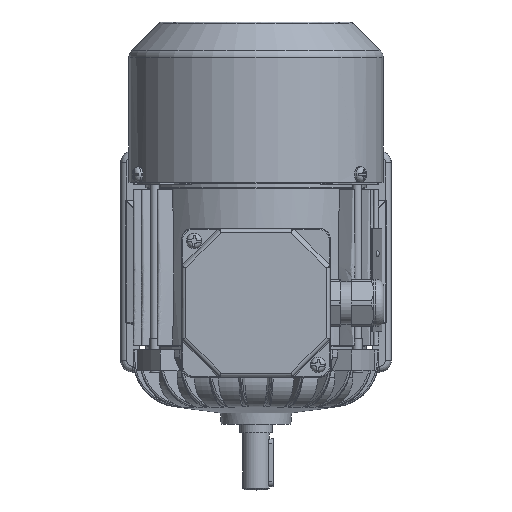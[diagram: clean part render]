
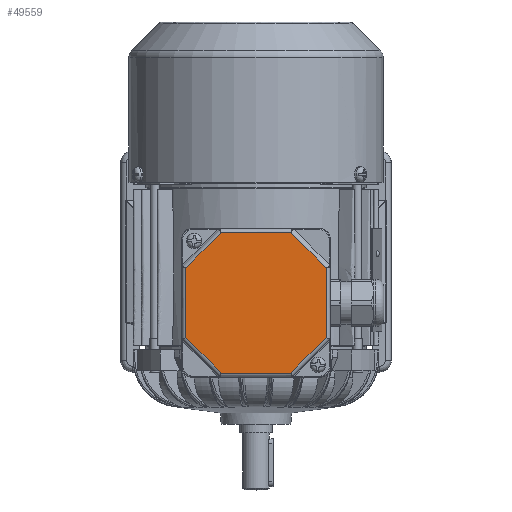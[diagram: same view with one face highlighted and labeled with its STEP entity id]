
A CAD part, top view. The second image highlights one B-rep face of the part: STEP entity #49559.
In plain terms, the highlighted planar face has unit normal (0, 0, 1).
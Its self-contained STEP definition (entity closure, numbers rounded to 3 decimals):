
#3709=LINE('',#91565,#6768);
#3710=LINE('',#91569,#6769);
#3712=LINE('',#91578,#6771);
#3714=LINE('',#91587,#6773);
#3763=LINE('',#91988,#6822);
#3764=LINE('',#91989,#6823);
#3765=LINE('',#91990,#6824);
#3766=LINE('',#91991,#6825);
#6768=VECTOR('',#78443,1000.);
#6769=VECTOR('',#78448,1000.);
#6771=VECTOR('',#78456,1000.);
#6773=VECTOR('',#78464,1000.);
#6822=VECTOR('',#78651,1000.);
#6823=VECTOR('',#78652,1000.);
#6824=VECTOR('',#78653,1000.);
#6825=VECTOR('',#78654,1000.);
#9778=PLANE('',#73317);
#12127=ORIENTED_EDGE('',*,*,#27662,.T.);
#12128=ORIENTED_EDGE('',*,*,#27562,.T.);
#12129=ORIENTED_EDGE('',*,*,#27663,.T.);
#12130=ORIENTED_EDGE('',*,*,#27566,.T.);
#12131=ORIENTED_EDGE('',*,*,#27664,.T.);
#12132=ORIENTED_EDGE('',*,*,#27558,.T.);
#12133=ORIENTED_EDGE('',*,*,#27665,.T.);
#12134=ORIENTED_EDGE('',*,*,#27556,.T.);
#27556=EDGE_CURVE('',#35380,#35379,#3709,.T.);
#27558=EDGE_CURVE('',#35381,#35382,#3710,.T.);
#27562=EDGE_CURVE('',#35385,#35386,#3712,.T.);
#27566=EDGE_CURVE('',#35389,#35390,#3714,.T.);
#27662=EDGE_CURVE('',#35379,#35385,#3763,.F.);
#27663=EDGE_CURVE('',#35386,#35389,#3764,.F.);
#27664=EDGE_CURVE('',#35390,#35381,#3765,.F.);
#27665=EDGE_CURVE('',#35382,#35380,#3766,.F.);
#35379=VERTEX_POINT('',#91564);
#35380=VERTEX_POINT('',#91566);
#35381=VERTEX_POINT('',#91570);
#35382=VERTEX_POINT('',#91571);
#35385=VERTEX_POINT('',#91579);
#35386=VERTEX_POINT('',#91580);
#35389=VERTEX_POINT('',#91588);
#35390=VERTEX_POINT('',#91589);
#42794=EDGE_LOOP('',(#12127,#12128,#12129,#12130,#12131,#12132,#12133,#12134));
#46166=FACE_BOUND('',#42794,.T.);
#49559=ADVANCED_FACE('',(#46166),#9778,.T.);
#73317=AXIS2_PLACEMENT_3D('',#91987,#78649,#78650);
#78443=DIRECTION('',(0.707,0.707,0.));
#78448=DIRECTION('',(0.707,-0.707,0.));
#78456=DIRECTION('',(-0.707,0.707,0.));
#78464=DIRECTION('',(-0.707,-0.707,0.));
#78649=DIRECTION('',(0.,0.,1.));
#78650=DIRECTION('',(1.,0.,0.));
#78651=DIRECTION('',(0.,-1.,0.));
#78652=DIRECTION('',(1.,0.,0.));
#78653=DIRECTION('',(0.,1.,0.));
#78654=DIRECTION('',(-1.,0.,0.));
#91564=CARTESIAN_POINT('',(36.825,9.245,110.5));
#91565=CARTESIAN_POINT('',(37.401,9.821,110.5));
#91566=CARTESIAN_POINT('',(18.255,-9.325,110.5));
#91569=CARTESIAN_POINT('',(-17.679,-9.901,110.5));
#91570=CARTESIAN_POINT('',(-36.825,9.245,110.5));
#91571=CARTESIAN_POINT('',(-18.255,-9.325,110.5));
#91578=CARTESIAN_POINT('',(17.679,64.901,110.5));
#91579=CARTESIAN_POINT('',(36.825,45.755,110.5));
#91580=CARTESIAN_POINT('',(18.255,64.325,110.5));
#91587=CARTESIAN_POINT('',(-37.401,45.179,110.5));
#91588=CARTESIAN_POINT('',(-18.255,64.325,110.5));
#91589=CARTESIAN_POINT('',(-36.825,45.755,110.5));
#91987=CARTESIAN_POINT('',(-39.,66.5,110.5));
#91988=CARTESIAN_POINT('',(36.825,46.569,110.5));
#91989=CARTESIAN_POINT('',(-19.069,64.325,110.5));
#91990=CARTESIAN_POINT('',(-36.825,8.431,110.5));
#91991=CARTESIAN_POINT('',(19.069,-9.325,110.5));
